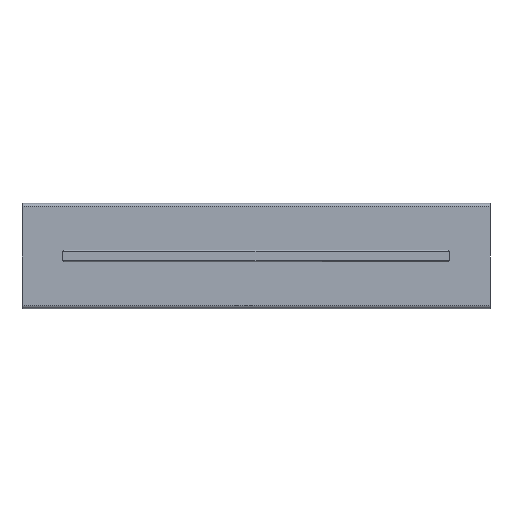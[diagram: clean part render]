
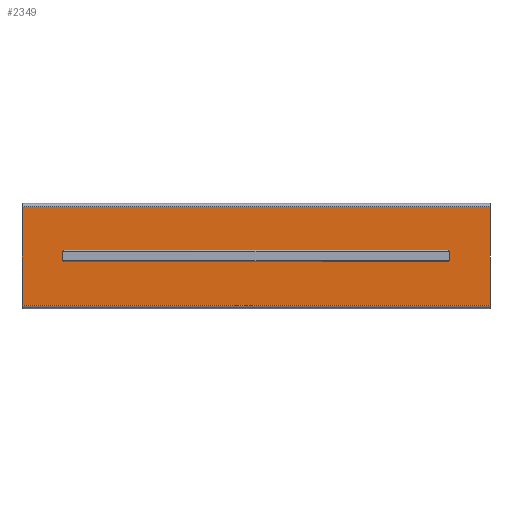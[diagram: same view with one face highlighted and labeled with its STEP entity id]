
A CAD part, front view. The second image highlights one B-rep face of the part: STEP entity #2349.
In plain terms, the highlighted planar face has unit normal (0, -1, 0).
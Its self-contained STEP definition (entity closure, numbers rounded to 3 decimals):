
#183 = EDGE_CURVE ( 'NONE', #2713, #498, #1301, .T. ) ;
#215 = CARTESIAN_POINT ( 'NONE',  ( -200., -40., 85.5 ) ) ;
#276 = FACE_OUTER_BOUND ( 'NONE', #1022, .T. ) ;
#324 = PLANE ( 'NONE',  #2642 ) ;
#325 = AXIS2_PLACEMENT_3D ( 'NONE', #740, #2258, #4636 ) ;
#330 = ORIENTED_EDGE ( 'NONE', *, *, #183, .T. ) ;
#488 = DIRECTION ( 'NONE',  ( 0., 0., -1. ) ) ;
#498 = VERTEX_POINT ( 'NONE', #4142 ) ;
#559 = CARTESIAN_POINT ( 'NONE',  ( -160., -40., 43.5 ) ) ;
#633 = VECTOR ( 'NONE', #488, 1000. ) ;
#656 = ORIENTED_EDGE ( 'NONE', *, *, #1899, .T. ) ;
#670 = LINE ( 'NONE', #1033, #2912 ) ;
#690 = DIRECTION ( 'NONE',  ( 0., 0., 1. ) ) ;
#740 = CARTESIAN_POINT ( 'NONE',  ( -160., -40., 43.5 ) ) ;
#757 = CARTESIAN_POINT ( 'NONE',  ( 160., -40., 39.5 ) ) ;
#856 = CARTESIAN_POINT ( 'NONE',  ( 200., -40., 85.5 ) ) ;
#862 = DIRECTION ( 'NONE',  ( -1., 0., 0. ) ) ;
#902 = AXIS2_PLACEMENT_3D ( 'NONE', #4084, #3387, #690 ) ;
#967 = ORIENTED_EDGE ( 'NONE', *, *, #2762, .F. ) ;
#1022 = EDGE_LOOP ( 'NONE', ( #3488, #1636, #967, #656 ) ) ;
#1033 = CARTESIAN_POINT ( 'NONE',  ( 200., -40., 85.5 ) ) ;
#1039 = DIRECTION ( 'NONE',  ( 0., 0., 1. ) ) ;
#1146 = VERTEX_POINT ( 'NONE', #757 ) ;
#1228 = ORIENTED_EDGE ( 'NONE', *, *, #4390, .T. ) ;
#1295 = CIRCLE ( 'NONE', #3068, 4. ) ;
#1301 = CIRCLE ( 'NONE', #325, 4. ) ;
#1309 = LINE ( 'NONE', #4443, #1601 ) ;
#1426 = CARTESIAN_POINT ( 'NONE',  ( 160., -40., 47.5 ) ) ;
#1475 = CARTESIAN_POINT ( 'NONE',  ( 160., -40., 43.5 ) ) ;
#1601 = VECTOR ( 'NONE', #2517, 1000. ) ;
#1636 = ORIENTED_EDGE ( 'NONE', *, *, #3096, .T. ) ;
#1669 = EDGE_CURVE ( 'NONE', #2034, #1146, #2849, .T. ) ;
#1800 = DIRECTION ( 'NONE',  ( 0., 1., 0. ) ) ;
#1899 = EDGE_CURVE ( 'NONE', #4790, #3059, #1309, .T. ) ;
#2004 = EDGE_CURVE ( 'NONE', #1146, #2034, #4507, .T. ) ;
#2034 = VERTEX_POINT ( 'NONE', #1426 ) ;
#2050 = CARTESIAN_POINT ( 'NONE',  ( -200., -40., 0. ) ) ;
#2258 = DIRECTION ( 'NONE',  ( 0., 1., 0. ) ) ;
#2349 = ADVANCED_FACE ( 'NONE', ( #4965, #3742, #276 ), #324, .F. ) ;
#2384 = CARTESIAN_POINT ( 'NONE',  ( -160., -40., 39.5 ) ) ;
#2421 = CARTESIAN_POINT ( 'NONE',  ( 200., -40., 1.5 ) ) ;
#2517 = DIRECTION ( 'NONE',  ( 0., 0., 1. ) ) ;
#2541 = DIRECTION ( 'NONE',  ( 0., 0., 1. ) ) ;
#2599 = DIRECTION ( 'NONE',  ( 0., 0., 1. ) ) ;
#2642 = AXIS2_PLACEMENT_3D ( 'NONE', #4912, #4185, #2599 ) ;
#2713 = VERTEX_POINT ( 'NONE', #2384 ) ;
#2762 = EDGE_CURVE ( 'NONE', #4790, #4795, #4276, .T. ) ;
#2845 = CARTESIAN_POINT ( 'NONE',  ( -200., -40., 1.5 ) ) ;
#2849 = CIRCLE ( 'NONE', #902, 4. ) ;
#2891 = AXIS2_PLACEMENT_3D ( 'NONE', #1475, #4883, #2541 ) ;
#2912 = VECTOR ( 'NONE', #3786, 1000. ) ;
#3059 = VERTEX_POINT ( 'NONE', #856 ) ;
#3068 = AXIS2_PLACEMENT_3D ( 'NONE', #559, #1800, #1039 ) ;
#3096 = EDGE_CURVE ( 'NONE', #3955, #4795, #4348, .T. ) ;
#3306 = ORIENTED_EDGE ( 'NONE', *, *, #2004, .T. ) ;
#3387 = DIRECTION ( 'NONE',  ( 0., 1., 0. ) ) ;
#3488 = ORIENTED_EDGE ( 'NONE', *, *, #4572, .T. ) ;
#3742 = FACE_BOUND ( 'NONE', #4014, .T. ) ;
#3786 = DIRECTION ( 'NONE',  ( -1., 0., 0. ) ) ;
#3955 = VERTEX_POINT ( 'NONE', #215 ) ;
#3963 = CARTESIAN_POINT ( 'NONE',  ( -200., -40., 1.5 ) ) ;
#4014 = EDGE_LOOP ( 'NONE', ( #4748, #3306 ) ) ;
#4084 = CARTESIAN_POINT ( 'NONE',  ( 160., -40., 43.5 ) ) ;
#4142 = CARTESIAN_POINT ( 'NONE',  ( -160., -40., 47.5 ) ) ;
#4185 = DIRECTION ( 'NONE',  ( 0., 1., 0. ) ) ;
#4276 = LINE ( 'NONE', #2845, #4595 ) ;
#4348 = LINE ( 'NONE', #2050, #633 ) ;
#4390 = EDGE_CURVE ( 'NONE', #498, #2713, #1295, .T. ) ;
#4394 = EDGE_LOOP ( 'NONE', ( #1228, #330 ) ) ;
#4443 = CARTESIAN_POINT ( 'NONE',  ( 200., -40., 0. ) ) ;
#4507 = CIRCLE ( 'NONE', #2891, 4. ) ;
#4572 = EDGE_CURVE ( 'NONE', #3059, #3955, #670, .T. ) ;
#4595 = VECTOR ( 'NONE', #862, 1000. ) ;
#4636 = DIRECTION ( 'NONE',  ( 0., 0., 1. ) ) ;
#4748 = ORIENTED_EDGE ( 'NONE', *, *, #1669, .T. ) ;
#4790 = VERTEX_POINT ( 'NONE', #2421 ) ;
#4795 = VERTEX_POINT ( 'NONE', #3963 ) ;
#4883 = DIRECTION ( 'NONE',  ( 0., 1., 0. ) ) ;
#4912 = CARTESIAN_POINT ( 'NONE',  ( 0., -40., 0. ) ) ;
#4965 = FACE_BOUND ( 'NONE', #4394, .T. ) ;
